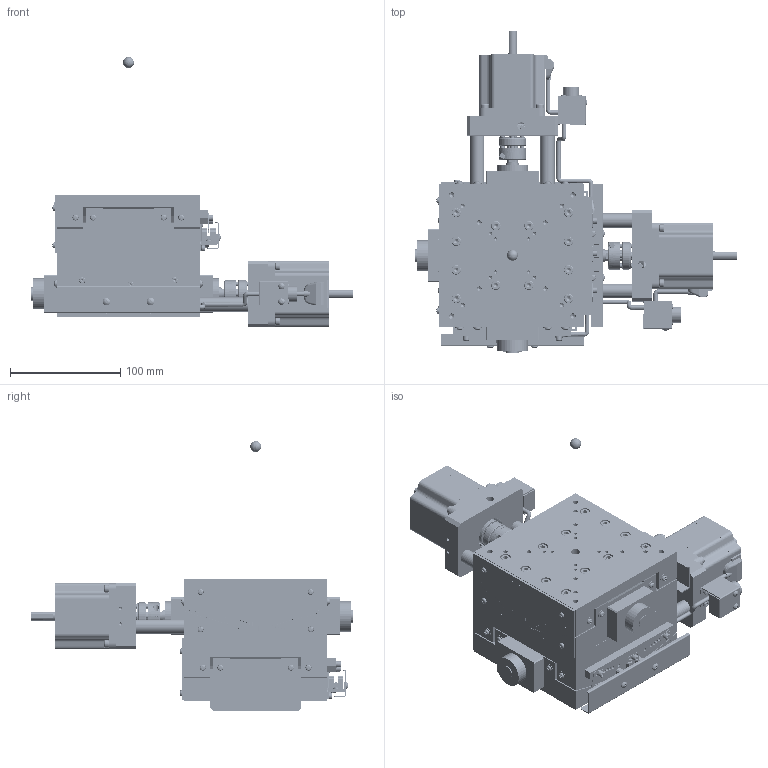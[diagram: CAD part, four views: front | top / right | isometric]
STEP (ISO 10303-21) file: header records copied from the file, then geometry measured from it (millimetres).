
FILE_DESCRIPTION (( 'STEP AP203' ), '1' );
FILE_NAME ('SA13A-RS01-RRR.STEP', '2019-02-26T08:41:14', ( '' ), ( '' ), 'SwSTEP 2.0', 'SolidWorks 2018', '' );
FILE_SCHEMA (( 'CONFIG_CONTROL_DESIGN' ));
Length unit declared in the file: millimetre
Products named in the file (8): base; table; second table; SA13A-RS01-RRR; base-Part-2; base-Part-1; base-Part-3; rotation center
Assembly tree (7 placements, depth 3):
  SA13A-RS01-RRR
    base
      base-Part-1
      base-Part-2
      base-Part-3
    second table
    table
    rotation center
Bounding box: 291.5 x 291.5 x 245 mm (x, y, z)
Volume: 2518823 mm3; surface area: 387434.3 mm2
Topology: 6 solids, 10 shells, 5776 faces, 14593 edges, 9065 vertices
Faces by surface type: plane 3570, cylinder 1360, cone 632, torus 124, sphere 82, bspline 8
Entity records: 177076 total; most frequent: CARTESIAN_POINT 35266, DIRECTION 30270, ORIENTED_EDGE 28752, EDGE_CURVE 14376, AXIS2_PLACEMENT_3D 10426, VECTOR 9418, LINE 9418, VERTEX_POINT 9062
